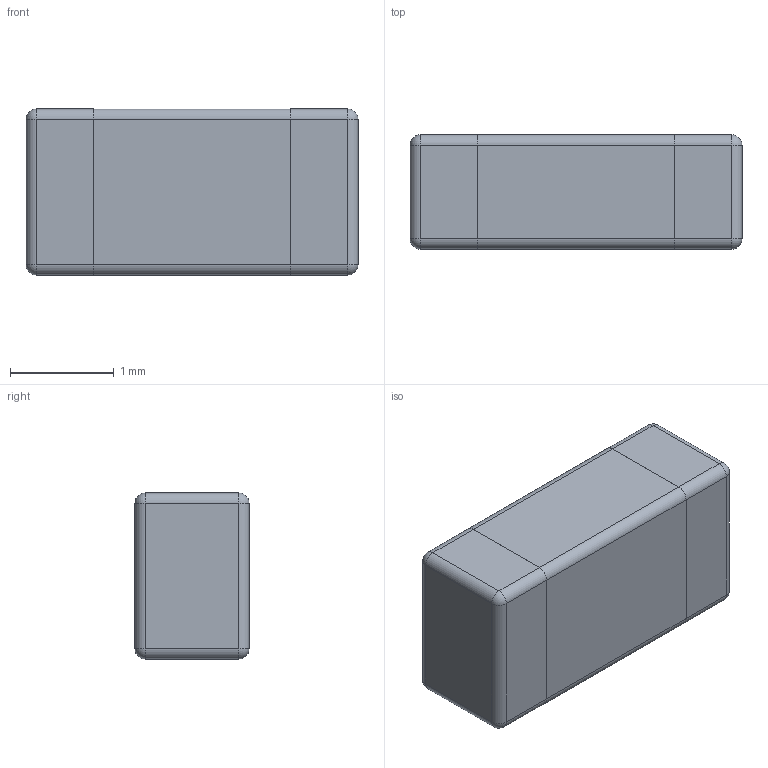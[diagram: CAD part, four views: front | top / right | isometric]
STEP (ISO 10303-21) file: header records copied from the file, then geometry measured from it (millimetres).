
FILE_DESCRIPTION (( 'STEP AP214' ), '1' );
FILE_NAME ( 'CAPC3216X110.STEP', '2013-08-13T09:46:33', ( '' ), ( '' ), 'FPX Expert 2013', 'PCB Libraries', '' );
FILE_SCHEMA (( 'AUTOMOTIVE_DESIGN' ));
Length unit declared in the file: millimetre
Products named in the file (1): CAPC3216X110
Bounding box: 3.2 x 1.1 x 1.6 mm (x, y, z)
Volume: 5.6 mm3; surface area: 26.8 mm2
Topology: 3 solids, 3 shells, 46 faces, 104 edges, 56 vertices
Faces by surface type: cylinder 20, plane 18, sphere 8
Entity records: 1380 total; most frequent: DIRECTION 230, CARTESIAN_POINT 199, ORIENTED_EDGE 192, EDGE_CURVE 96, AXIS2_PLACEMENT_3D 87, VERTEX_POINT 56, VECTOR 56, LINE 56
